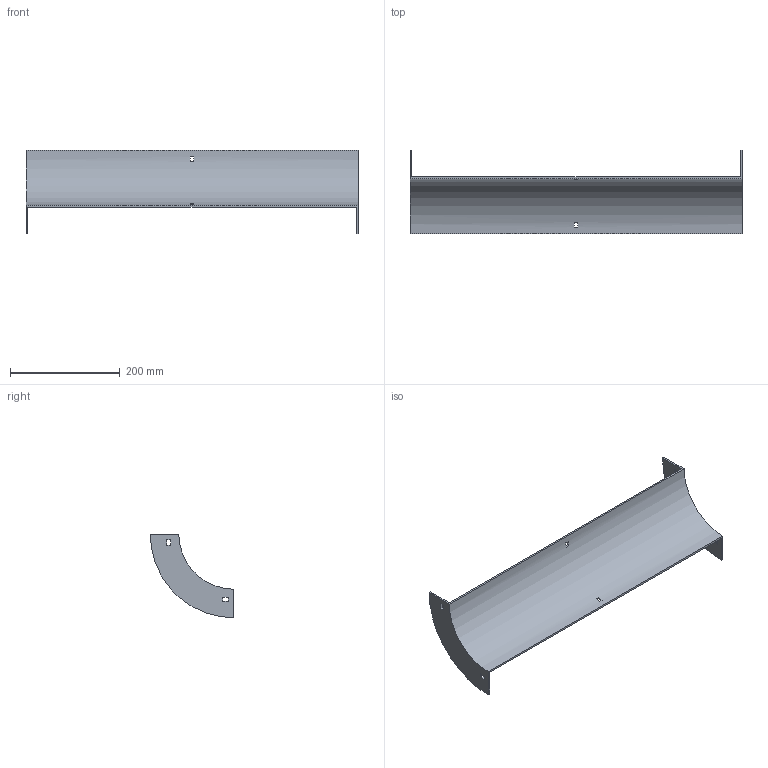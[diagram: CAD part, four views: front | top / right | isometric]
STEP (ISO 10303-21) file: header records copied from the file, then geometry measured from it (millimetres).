
FILE_DESCRIPTION (( 'STEP AP214' ), '1' );
FILE_NAME ('33B1B600.step', '2025-02-21T09:31:47', ( '' ), ( '' ), 'SwSTEP 2.0', 'SolidWorks 2023', '' );
FILE_SCHEMA (( 'AUTOMOTIVE_DESIGN' ));
Length unit declared in the file: millimetre
Products named in the file (1): 33B1B600
Bounding box: 604 x 152 x 152 mm (x, y, z)
Volume: 404609.6 mm3; surface area: 238460.6 mm2
Topology: 1 solids, 1 shells, 34 faces, 96 edges, 64 vertices
Faces by surface type: plane 30, cylinder 4
Entity records: 1143 total; most frequent: CARTESIAN_POINT 195, ORIENTED_EDGE 192, DIRECTION 182, EDGE_CURVE 96, VECTOR 80, LINE 80, VERTEX_POINT 64, AXIS2_PLACEMENT_3D 51
